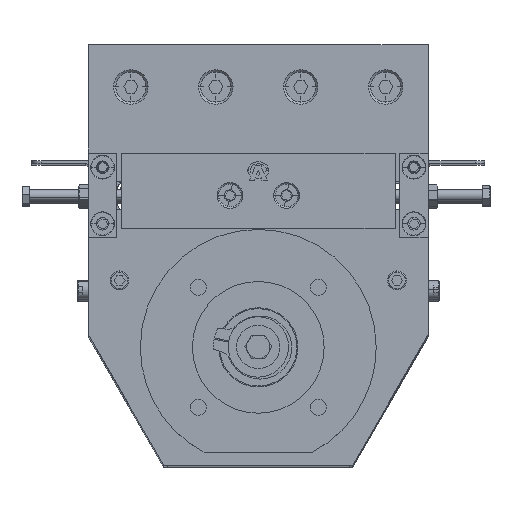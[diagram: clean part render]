
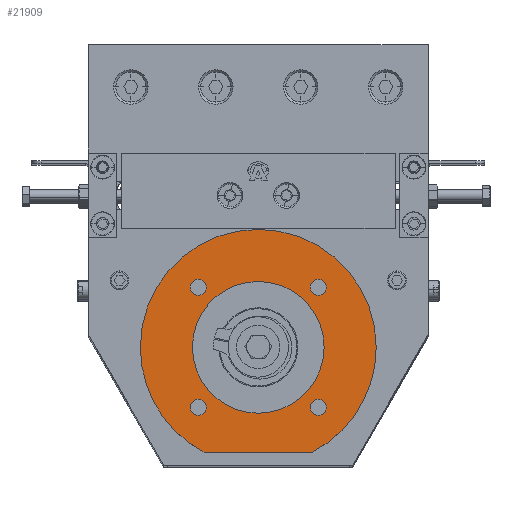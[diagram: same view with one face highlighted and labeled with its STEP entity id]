
A CAD part, top view. The second image highlights one B-rep face of the part: STEP entity #21909.
In plain terms, the highlighted planar face has unit normal (0, 0, 1).
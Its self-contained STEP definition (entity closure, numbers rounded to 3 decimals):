
#637 = CIRCLE ( 'NONE', #6740, 62.5 ) ;
#882 = EDGE_LOOP ( 'NONE', ( #16715, #2181 ) ) ;
#929 = FACE_BOUND ( 'NONE', #6074, .T. ) ;
#952 = AXIS2_PLACEMENT_3D ( 'NONE', #31564, #16672, #1525 ) ;
#1099 = VERTEX_POINT ( 'NONE', #3968 ) ;
#1217 = CIRCLE ( 'NONE', #24800, 34.9 ) ;
#1260 = DIRECTION ( 'NONE',  ( 0., 0., -1. ) ) ;
#1339 = EDGE_CURVE ( 'NONE', #11836, #32084, #637, .T. ) ;
#1525 = DIRECTION ( 'NONE',  ( 1., 0., 0. ) ) ;
#1648 = DIRECTION ( 'NONE',  ( 0., 0., -1. ) ) ;
#1833 = AXIS2_PLACEMENT_3D ( 'NONE', #16797, #1648, #19318 ) ;
#2066 = EDGE_LOOP ( 'NONE', ( #8280, #14650 ) ) ;
#2181 = ORIENTED_EDGE ( 'NONE', *, *, #25664, .T. ) ;
#2465 = DIRECTION ( 'NONE',  ( 0., 0., -1. ) ) ;
#2525 = FACE_OUTER_BOUND ( 'NONE', #4872, .T. ) ;
#2653 = DIRECTION ( 'NONE',  ( 0., 0., 1. ) ) ;
#3012 = LINE ( 'NONE', #20144, #28883 ) ;
#3417 = CARTESIAN_POINT ( 'NONE',  ( 0., 62.5, 343.5 ) ) ;
#3595 = VERTEX_POINT ( 'NONE', #5393 ) ;
#3968 = CARTESIAN_POINT ( 'NONE',  ( 28.74, 7., 343.5 ) ) ;
#4288 = CIRCLE ( 'NONE', #1833, 4.25 ) ;
#4342 = AXIS2_PLACEMENT_3D ( 'NONE', #26293, #11415, #28773 ) ;
#4699 = CARTESIAN_POINT ( 'NONE',  ( 36.07, 94.32, 343.5 ) ) ;
#4727 = CARTESIAN_POINT ( 'NONE',  ( 27.57, 30.68, 343.5 ) ) ;
#4872 = EDGE_LOOP ( 'NONE', ( #22941, #19467, #11325, #16317 ) ) ;
#5393 = CARTESIAN_POINT ( 'NONE',  ( -27.57, 30.68, 343.5 ) ) ;
#6004 = DIRECTION ( 'NONE',  ( 1., 0., 0. ) ) ;
#6053 = CARTESIAN_POINT ( 'NONE',  ( 27.57, 94.32, 343.5 ) ) ;
#6074 = EDGE_LOOP ( 'NONE', ( #19433, #11565 ) ) ;
#6740 = AXIS2_PLACEMENT_3D ( 'NONE', #14854, #14808, #14781 ) ;
#6992 = VERTEX_POINT ( 'NONE', #18864 ) ;
#7110 = EDGE_CURVE ( 'NONE', #14481, #6992, #28272, .T. ) ;
#7313 = VERTEX_POINT ( 'NONE', #22589 ) ;
#7736 = ORIENTED_EDGE ( 'NONE', *, *, #7110, .T. ) ;
#8053 = EDGE_CURVE ( 'NONE', #7313, #3595, #16587, .T. ) ;
#8108 = CARTESIAN_POINT ( 'NONE',  ( 31.82, 94.32, 343.5 ) ) ;
#8280 = ORIENTED_EDGE ( 'NONE', *, *, #17166, .F. ) ;
#8373 = CARTESIAN_POINT ( 'NONE',  ( 31.82, 30.68, 343.5 ) ) ;
#8560 = VERTEX_POINT ( 'NONE', #4699 ) ;
#9334 = CARTESIAN_POINT ( 'NONE',  ( -31.82, 94.32, 343.5 ) ) ;
#9613 = AXIS2_PLACEMENT_3D ( 'NONE', #17622, #2465, #20124 ) ;
#9938 = VERTEX_POINT ( 'NONE', #25098 ) ;
#10547 = CIRCLE ( 'NONE', #4342, 4.25 ) ;
#10678 = DIRECTION ( 'NONE',  ( -1., 0., 0. ) ) ;
#10910 = DIRECTION ( 'NONE',  ( -1., 0., 0. ) ) ;
#11228 = CARTESIAN_POINT ( 'NONE',  ( 36.07, 30.68, 343.5 ) ) ;
#11325 = ORIENTED_EDGE ( 'NONE', *, *, #27875, .T. ) ;
#11343 = CARTESIAN_POINT ( 'NONE',  ( -34.9, 62.5, 343.5 ) ) ;
#11415 = DIRECTION ( 'NONE',  ( 0., 0., -1. ) ) ;
#11565 = ORIENTED_EDGE ( 'NONE', *, *, #31010, .T. ) ;
#11836 = VERTEX_POINT ( 'NONE', #16807 ) ;
#11875 = DIRECTION ( 'NONE',  ( -1., 0., 0. ) ) ;
#12289 = VERTEX_POINT ( 'NONE', #11343 ) ;
#12813 = CIRCLE ( 'NONE', #17241, 62.5 ) ;
#13156 = CIRCLE ( 'NONE', #17050, 4.25 ) ;
#13264 = CARTESIAN_POINT ( 'NONE',  ( -36.07, 94.32, 343.5 ) ) ;
#13343 = EDGE_CURVE ( 'NONE', #1099, #11836, #12813, .T. ) ;
#13629 = DIRECTION ( 'NONE',  ( 0., 0., -1. ) ) ;
#13887 = CARTESIAN_POINT ( 'NONE',  ( 0., 125., 343.5 ) ) ;
#14010 = EDGE_CURVE ( 'NONE', #6992, #14481, #13156, .T. ) ;
#14481 = VERTEX_POINT ( 'NONE', #13264 ) ;
#14650 = ORIENTED_EDGE ( 'NONE', *, *, #22345, .F. ) ;
#14781 = DIRECTION ( 'NONE',  ( 1., 0., 0. ) ) ;
#14808 = DIRECTION ( 'NONE',  ( 0., 0., 1. ) ) ;
#14854 = CARTESIAN_POINT ( 'NONE',  ( 0., 62.5, 343.5 ) ) ;
#14887 = CARTESIAN_POINT ( 'NONE',  ( 0., 62.5, 343.5 ) ) ;
#15185 = CIRCLE ( 'NONE', #16803, 4.25 ) ;
#15924 = EDGE_CURVE ( 'NONE', #24153, #16354, #4288, .T. ) ;
#16317 = ORIENTED_EDGE ( 'NONE', *, *, #20853, .F. ) ;
#16354 = VERTEX_POINT ( 'NONE', #11228 ) ;
#16376 = DIRECTION ( 'NONE',  ( -1., 0., 0. ) ) ;
#16416 = CARTESIAN_POINT ( 'NONE',  ( 31.82, 94.32, 343.5 ) ) ;
#16587 = CIRCLE ( 'NONE', #9613, 4.25 ) ;
#16672 = DIRECTION ( 'NONE',  ( 0., 0., 1. ) ) ;
#16715 = ORIENTED_EDGE ( 'NONE', *, *, #8053, .T. ) ;
#16797 = CARTESIAN_POINT ( 'NONE',  ( 31.82, 30.68, 343.5 ) ) ;
#16803 = AXIS2_PLACEMENT_3D ( 'NONE', #8373, #25799, #10910 ) ;
#16807 = CARTESIAN_POINT ( 'NONE',  ( 62.5, 62.5, 343.5 ) ) ;
#16998 = CARTESIAN_POINT ( 'NONE',  ( -62.5, 62.5, 343.5 ) ) ;
#17050 = AXIS2_PLACEMENT_3D ( 'NONE', #28505, #13629, #31021 ) ;
#17106 = EDGE_LOOP ( 'NONE', ( #7736, #18804 ) ) ;
#17166 = EDGE_CURVE ( 'NONE', #20104, #12289, #1217, .T. ) ;
#17241 = AXIS2_PLACEMENT_3D ( 'NONE', #14887, #32286, #17420 ) ;
#17420 = DIRECTION ( 'NONE',  ( 1., 0., 0. ) ) ;
#17622 = CARTESIAN_POINT ( 'NONE',  ( -31.82, 30.68, 343.5 ) ) ;
#17791 = CARTESIAN_POINT ( 'NONE',  ( 0., 62.5, 343.5 ) ) ;
#17912 = EDGE_CURVE ( 'NONE', #29987, #8560, #20892, .T. ) ;
#18804 = ORIENTED_EDGE ( 'NONE', *, *, #14010, .T. ) ;
#18864 = CARTESIAN_POINT ( 'NONE',  ( -27.57, 94.32, 343.5 ) ) ;
#18957 = DIRECTION ( 'NONE',  ( -1., 0., 0. ) ) ;
#19318 = DIRECTION ( 'NONE',  ( -1., 0., 0. ) ) ;
#19433 = ORIENTED_EDGE ( 'NONE', *, *, #17912, .T. ) ;
#19467 = ORIENTED_EDGE ( 'NONE', *, *, #1339, .T. ) ;
#20104 = VERTEX_POINT ( 'NONE', #26686 ) ;
#20124 = DIRECTION ( 'NONE',  ( -1., 0., 0. ) ) ;
#20144 = CARTESIAN_POINT ( 'NONE',  ( 28.74, 7., 343.5 ) ) ;
#20163 = AXIS2_PLACEMENT_3D ( 'NONE', #3417, #21011, #6004 ) ;
#20249 = CIRCLE ( 'NONE', #20163, 34.9 ) ;
#20274 = DIRECTION ( 'NONE',  ( 1., 0., 0. ) ) ;
#20280 = FACE_BOUND ( 'NONE', #2066, .T. ) ;
#20853 = EDGE_CURVE ( 'NONE', #1099, #9938, #3012, .T. ) ;
#20892 = CIRCLE ( 'NONE', #24601, 4.25 ) ;
#21011 = DIRECTION ( 'NONE',  ( 0., 0., 1. ) ) ;
#21040 = FACE_BOUND ( 'NONE', #28736, .T. ) ;
#21909 = ADVANCED_FACE ( 'NONE', ( #28399, #21040, #929, #26851, #20280, #2525 ), #28747, .F. ) ;
#22283 = CIRCLE ( 'NONE', #23791, 4.25 ) ;
#22310 = EDGE_CURVE ( 'NONE', #16354, #24153, #15185, .T. ) ;
#22345 = EDGE_CURVE ( 'NONE', #12289, #20104, #20249, .T. ) ;
#22589 = CARTESIAN_POINT ( 'NONE',  ( -36.07, 30.68, 343.5 ) ) ;
#22593 = DIRECTION ( 'NONE',  ( -1., 0., 0. ) ) ;
#22941 = ORIENTED_EDGE ( 'NONE', *, *, #13343, .T. ) ;
#23467 = ORIENTED_EDGE ( 'NONE', *, *, #15924, .T. ) ;
#23791 = AXIS2_PLACEMENT_3D ( 'NONE', #8108, #25572, #10678 ) ;
#24153 = VERTEX_POINT ( 'NONE', #4727 ) ;
#24601 = AXIS2_PLACEMENT_3D ( 'NONE', #16416, #1260, #18957 ) ;
#24800 = AXIS2_PLACEMENT_3D ( 'NONE', #17791, #2653, #20274 ) ;
#25098 = CARTESIAN_POINT ( 'NONE',  ( -28.74, 7., 343.5 ) ) ;
#25572 = DIRECTION ( 'NONE',  ( 0., 0., -1. ) ) ;
#25664 = EDGE_CURVE ( 'NONE', #3595, #7313, #10547, .T. ) ;
#25799 = DIRECTION ( 'NONE',  ( 0., 0., -1. ) ) ;
#26293 = CARTESIAN_POINT ( 'NONE',  ( -31.82, 30.68, 343.5 ) ) ;
#26686 = CARTESIAN_POINT ( 'NONE',  ( 34.9, 62.5, 343.5 ) ) ;
#26744 = DIRECTION ( 'NONE',  ( 0., 0., -1. ) ) ;
#26851 = FACE_BOUND ( 'NONE', #17106, .T. ) ;
#27092 = AXIS2_PLACEMENT_3D ( 'NONE', #9334, #26744, #11875 ) ;
#27419 = ORIENTED_EDGE ( 'NONE', *, *, #22310, .T. ) ;
#27875 = EDGE_CURVE ( 'NONE', #32084, #9938, #28664, .T. ) ;
#28011 = AXIS2_PLACEMENT_3D ( 'NONE', #13887, #31271, #16376 ) ;
#28272 = CIRCLE ( 'NONE', #27092, 4.25 ) ;
#28399 = FACE_BOUND ( 'NONE', #882, .T. ) ;
#28505 = CARTESIAN_POINT ( 'NONE',  ( -31.82, 94.32, 343.5 ) ) ;
#28664 = CIRCLE ( 'NONE', #952, 62.5 ) ;
#28736 = EDGE_LOOP ( 'NONE', ( #23467, #27419 ) ) ;
#28747 = PLANE ( 'NONE',  #28011 ) ;
#28773 = DIRECTION ( 'NONE',  ( -1., 0., 0. ) ) ;
#28883 = VECTOR ( 'NONE', #22593, 1000. ) ;
#29987 = VERTEX_POINT ( 'NONE', #6053 ) ;
#31010 = EDGE_CURVE ( 'NONE', #8560, #29987, #22283, .T. ) ;
#31021 = DIRECTION ( 'NONE',  ( -1., 0., 0. ) ) ;
#31271 = DIRECTION ( 'NONE',  ( 0., 0., -1. ) ) ;
#31564 = CARTESIAN_POINT ( 'NONE',  ( 0., 62.5, 343.5 ) ) ;
#32084 = VERTEX_POINT ( 'NONE', #16998 ) ;
#32286 = DIRECTION ( 'NONE',  ( 0., 0., 1. ) ) ;
